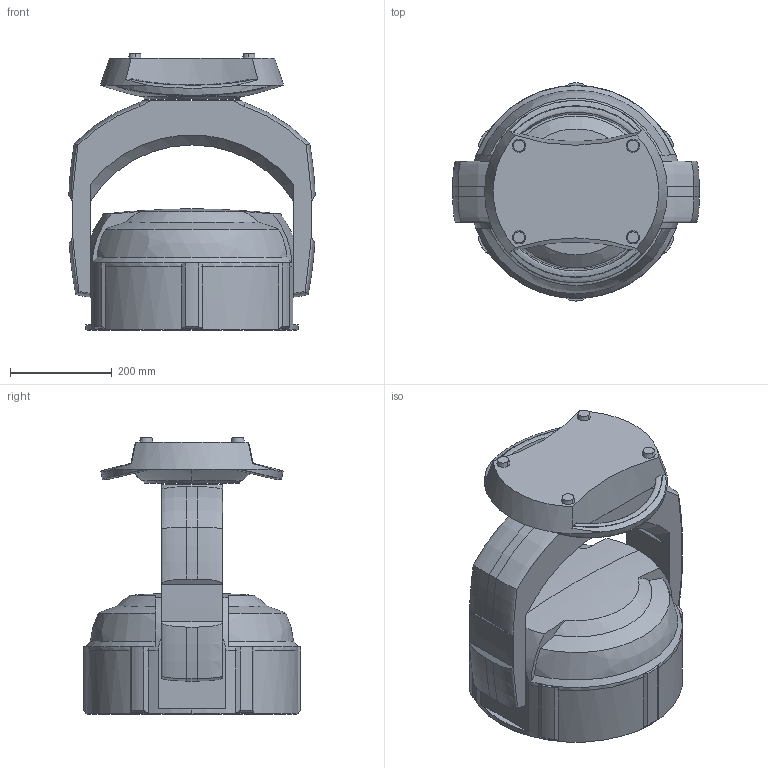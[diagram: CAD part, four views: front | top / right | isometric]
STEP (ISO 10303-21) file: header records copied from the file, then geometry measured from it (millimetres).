
FILE_DESCRIPTION((''),'2;1');
FILE_NAME('X5_MAXX_BASIC_ASM','2023-09-29T10:47:15',('MichaelSpatz'),(''),'CREO PARAMETRIC BY PTC INC, 2023073','CREO PARAMETRIC BY PTC INC, 2023073','');
FILE_SCHEMA(('AUTOMOTIVE_DESIGN { 1 0 10303 214 1 1 1 1 }'));
Length unit declared in the file: millimetre
Products named in the file (4): X5_MAXX_BASE_BASIC; X5_MAXX_YOKE_BASIC; X5_MAXX_HEAD_BASIC; X5_MAXX_BASIC_ASM
Assembly tree (3 placements, depth 2):
  X5_MAXX_BASIC_ASM
    X5_MAXX_BASE_BASIC
    X5_MAXX_YOKE_BASIC
    X5_MAXX_HEAD_BASIC
Bounding box: 484.66 x 428.63 x 544.46 mm (x, y, z)
Volume: 40804807.2 mm3; surface area: 1143486.8 mm2
Topology: 3 solids, 3 shells, 153 faces, 412 edges, 263 vertices
Faces by surface type: plane 58, cylinder 29, cone 26, revolution 20, bspline 10, extrusion 6, sphere 4
Entity records: 9176 total; most frequent: CARTESIAN_POINT 4395, DIRECTION 853, ORIENTED_EDGE 820, EDGE_CURVE 410, AXIS2_PLACEMENT_3D 337, VERTEX_POINT 263, B_SPLINE_CURVE_WITH_KNOTS 172, CIRCLE 160
